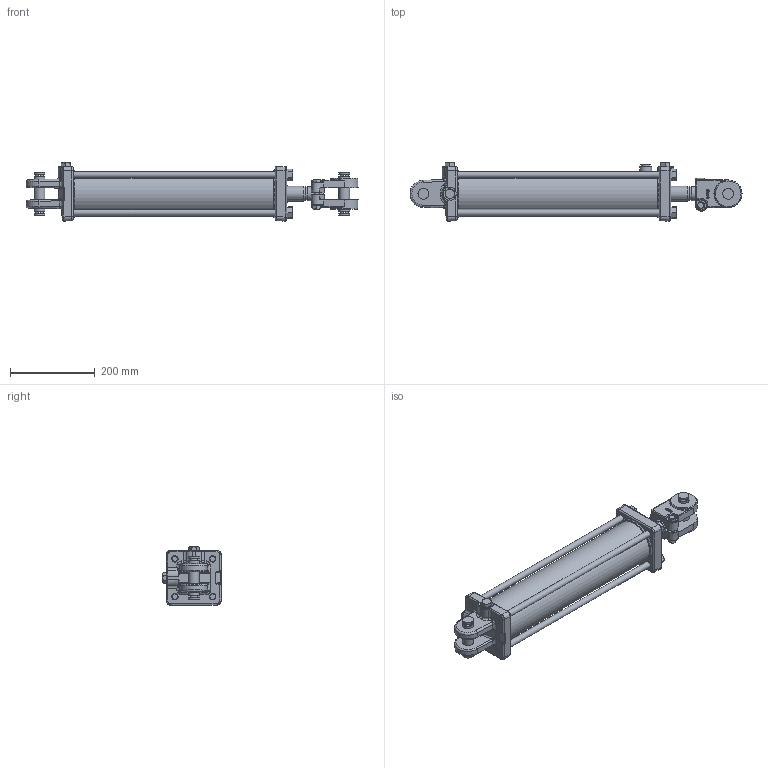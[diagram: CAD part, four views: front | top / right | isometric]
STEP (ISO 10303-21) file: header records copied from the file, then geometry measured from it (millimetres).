
FILE_DESCRIPTION((''),'2;1');
FILE_NAME('C:\Vault\Workspace\Vest\PMS-AM-2560A.stp','2010-09-09T13:35:52',('kneifld'),(''),'Autodesk Inventor 2010','Autodesk Inventor 2010','');
FILE_SCHEMA(('AUTOMOTIVE_DESIGN { 1 0 10303 214 1 1 1 1 }'));
Length unit declared in the file: inch
Products named in the file (28): PMS-AM-2560A; 061800024; 051800036; 200300181V; 141800009V; 081800022V; 081800021V; 210700077V; 010700699; 100000577V; 100000576V; 170002105; 220000223V; 071800032V; 220000210V; 240064375V; 240061238V; 240000238V; 240011098V; 240000028V; 250014137V; 240020185V; 200300104V; 200300040V; 190400004V; 170301213; 220000107
Assembly tree (35 placements, depth 3):
  PMS-AM-2560A
    061800024
      051800036
      200300181V
    141800009V
    081800022V
      081800021V
      210700077V
    010700699
    100000577V
      100000576V
      170002105
      220000223V
    071800032V
    220000210V
    240064375V
    240061238V  x2
    240000238V  x2
    240011098V
    240000028V
    250014137V
    240020185V
    200300104V
    200300040V  x3
    190400004V  x2
    170301213  x4
      170301213
      220000107
Bounding box: 781.74 x 137.02 x 137.02 mm (x, y, z)
Volume: 3349681.8 mm3; surface area: 777701 mm2
Topology: 34 solids, 34 shells, 1097 faces, 2471 edges, 1405 vertices
Faces by surface type: bspline 358, cylinder 278, plane 248, cone 157, sphere 31, torus 25
Full cylindrical faces by diameter (mm): 1.575 x1, 2.769 x1, 5.156 x2, 5.159 x2, 11.113 x1, 11.906 x2, 14.834 x4, 16.764 x3, 19.05 x4, 22.352 x1, 25.349 x1, 25.4 x6, 25.476 x1, 25.781 x4, 28.575 x1, 30.556 x1, 33.147 x1, 34.9 x2, 34.925 x2, 35.077 x1, 35.878 x1, 36.551 x1, 37.363 x1, 38.882 x1, 38.894 x1, 39.624 x1, 41.123 x1, 42.139 x1, 43.498 x1, 43.663 x1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
Entity records: 37974 total; most frequent: CARTESIAN_POINT 18706, ORIENTED_EDGE 3788, DIRECTION 3565, EDGE_CURVE 1894, AXIS2_PLACEMENT_3D 1536, EDGE_LOOP 1190, VERTEX_POINT 1182, FACE_OUTER_BOUND 939
